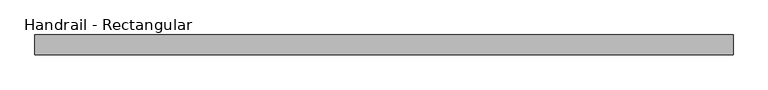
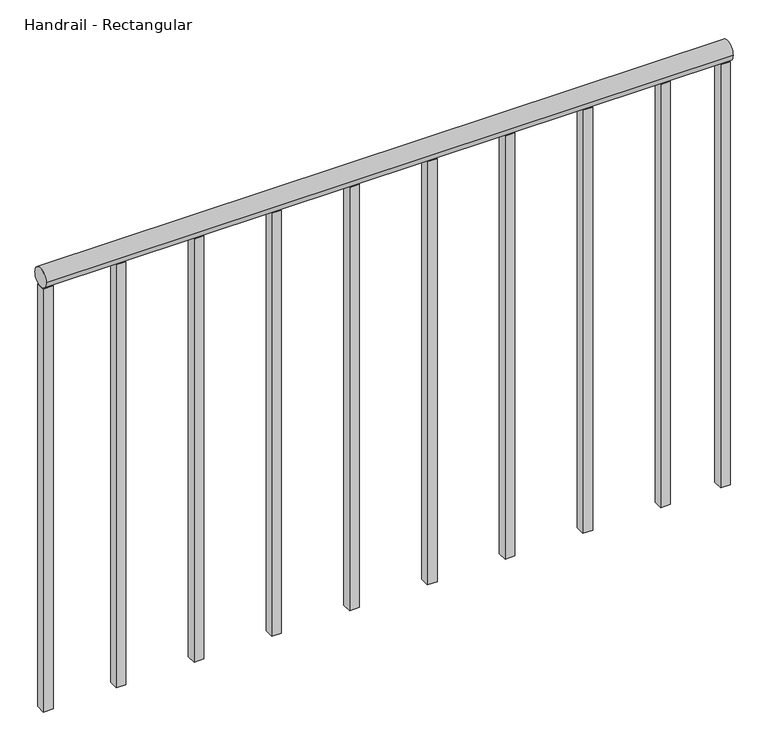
"""IFC4 building model written with IfcOpenShell, lengths in millimetres: railing geometry, Handrail - Rectangular."""

from ifc_helpers import new_model, si_unit, point, frame, frame_2d, origin, place, context, project, spatial, polyline, circle_curve, trimmed, segment, composite_curve, outline, extrude, source, transform, mapped, element, save


def handrail_rectangular_7d881666(model_context):
    return source(origin(), model_context, "Body", "SweptSolid", [
        extrude(outline(composite_curve([segment(trimmed(circle_curve(frame_2d((11944.8316867, 3943.35)), 19.05), [point((11963.8816867, 3943.35))], [point((11925.7816867, 3943.35))], False, "CARTESIAN"), True, "CONTINUOUS"), segment(trimmed(circle_curve(frame_2d((11944.8316867, 3943.35)), 19.05), [point((11925.7816867, 3943.35))], [point((11963.8816867, 3943.35))], False, "CARTESIAN"), True, "CONTINUOUS")], self_intersect=False)), frame((-5665.7589563, 0.0, 0.0), z_axis=(1.0, 0.0, 0.0), x_axis=(0.0, 1.0, 0.0)), (0.0, 0.0, 1.0), 1346.2),
        extrude(outline(polyline([(-4456.0839563, 11935.3066867), (-4456.0839563, 11954.3566867), (-4437.0339563, 11954.3566867), (-4437.0339563, 11935.3066867), (-4456.0839563, 11935.3066867)])), frame((0.0, 0.0, 3048.0), z_axis=(0.0, 0.0, 1.0), x_axis=(1.0, 0.0, 0.0)), (0.0, 0.0, 1.0), 876.3),
        extrude(outline(polyline([(-4608.4839563, 11935.3066867), (-4608.4839563, 11954.3566867), (-4589.4339563, 11954.3566867), (-4589.4339563, 11935.3066867), (-4608.4839563, 11935.3066867)])), frame((0.0, 0.0, 3048.0), z_axis=(0.0, 0.0, 1.0), x_axis=(1.0, 0.0, 0.0)), (0.0, 0.0, 1.0), 876.3),
        extrude(outline(polyline([(-4760.8839563, 11935.3066867), (-4760.8839563, 11954.3566867), (-4741.8339563, 11954.3566867), (-4741.8339563, 11935.3066867), (-4760.8839563, 11935.3066867)])), frame((0.0, 0.0, 3048.0), z_axis=(0.0, 0.0, 1.0), x_axis=(1.0, 0.0, 0.0)), (0.0, 0.0, 1.0), 876.3),
        extrude(outline(polyline([(-4913.2839563, 11935.3066867), (-4913.2839563, 11954.3566867), (-4894.2339563, 11954.3566867), (-4894.2339563, 11935.3066867), (-4913.2839563, 11935.3066867)])), frame((0.0, 0.0, 3048.0), z_axis=(0.0, 0.0, 1.0), x_axis=(1.0, 0.0, 0.0)), (0.0, 0.0, 1.0), 876.3),
        extrude(outline(polyline([(-5065.6839563, 11935.3066867), (-5065.6839563, 11954.3566867), (-5046.6339563, 11954.3566867), (-5046.6339563, 11935.3066867), (-5065.6839563, 11935.3066867)])), frame((0.0, 0.0, 3048.0), z_axis=(0.0, 0.0, 1.0), x_axis=(1.0, 0.0, 0.0)), (0.0, 0.0, 1.0), 876.3),
        extrude(outline(polyline([(-5218.0839563, 11935.3066867), (-5218.0839563, 11954.3566867), (-5199.0339563, 11954.3566867), (-5199.0339563, 11935.3066867), (-5218.0839563, 11935.3066867)])), frame((0.0, 0.0, 3048.0), z_axis=(0.0, 0.0, 1.0), x_axis=(1.0, 0.0, 0.0)), (0.0, 0.0, 1.0), 876.3),
        extrude(outline(polyline([(-5370.4839563, 11935.3066867), (-5370.4839563, 11954.3566867), (-5351.4339563, 11954.3566867), (-5351.4339563, 11935.3066867), (-5370.4839563, 11935.3066867)])), frame((0.0, 0.0, 3048.0), z_axis=(0.0, 0.0, 1.0), x_axis=(1.0, 0.0, 0.0)), (0.0, 0.0, 1.0), 876.3),
        extrude(outline(polyline([(-5522.8839563, 11935.3066867), (-5522.8839563, 11954.3566867), (-5503.8339563, 11954.3566867), (-5503.8339563, 11935.3066867), (-5522.8839563, 11935.3066867)])), frame((0.0, 0.0, 3048.0), z_axis=(0.0, 0.0, 1.0), x_axis=(1.0, 0.0, 0.0)), (0.0, 0.0, 1.0), 876.3),
        extrude(outline(polyline([(-4338.6089563, 11935.3066867), (-4338.6089563, 11954.3566867), (-4319.5589563, 11954.3566867), (-4319.5589563, 11935.3066867), (-4338.6089563, 11935.3066867)])), frame((0.0, 0.0, 3048.0), z_axis=(0.0, 0.0, 1.0), x_axis=(1.0, 0.0, 0.0)), (0.0, 0.0, 1.0), 876.3),
        extrude(outline(polyline([(-5665.7589563, 11935.3066867), (-5665.7589563, 11954.3566867), (-5646.7089563, 11954.3566867), (-5646.7089563, 11935.3066867), (-5665.7589563, 11935.3066867)])), frame((0.0, 0.0, 3048.0), z_axis=(0.0, 0.0, 1.0), x_axis=(1.0, 0.0, 0.0)), (0.0, 0.0, 1.0), 876.3),
    ])


if __name__ == "__main__":
    model = new_model("IFC4")
    model_context = context("Model", 3, world=origin())
    ifc_project = project(units=[si_unit("LENGTHUNIT", "METRE", prefix="MILLI")], contexts=[model_context])
    site = spatial("IfcSite", under=ifc_project)
    building = spatial("IfcBuilding", under=site)
    placement = place(None, origin())
    handrail_rectangular_shape = handrail_rectangular_7d881666(model_context)
    element("IfcRailing", 1, ObjectType="Handrail - Rectangular", at=placement, inside=building, context=model_context, shape_type="MappedRepresentation", body=[
        mapped(handrail_rectangular_shape, transform((0.0, 0.0, 0.0), x_axis=(1.0, 0.0, 0.0), y_axis=(0.0, 1.0, 0.0), z_axis=(0.0, 0.0, 1.0))),
    ])
    save(model, "model.ifc")
